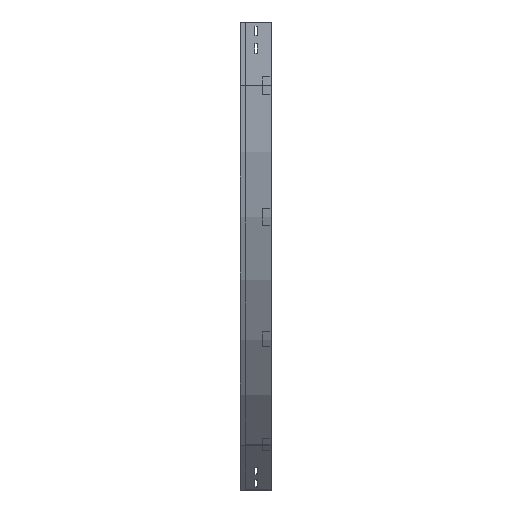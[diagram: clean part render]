
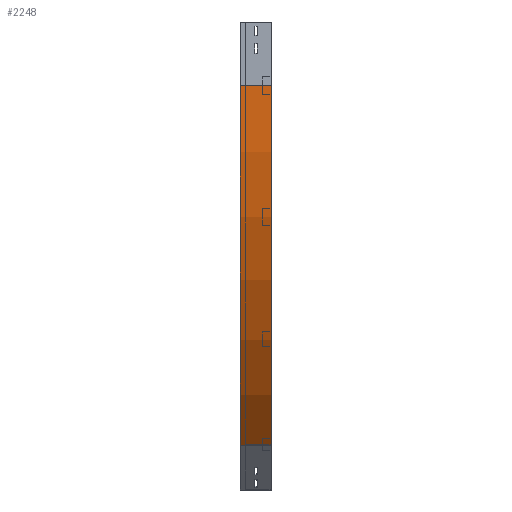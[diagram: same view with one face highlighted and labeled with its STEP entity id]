
A CAD part, left-side view. The second image highlights one B-rep face of the part: STEP entity #2248.
In plain terms, the highlighted cylindrical face has radius 1200 mm (diameter 2400 mm), a partial arc.
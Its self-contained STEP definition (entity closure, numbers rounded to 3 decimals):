
#205 = AXIS2_PLACEMENT_3D ( 'NONE', #984, #1690, #2257 ) ;
#376 = AXIS2_PLACEMENT_3D ( 'NONE', #515, #788, #1656 ) ;
#482 = VECTOR ( 'NONE', #853, 1000. ) ;
#515 = CARTESIAN_POINT ( 'NONE',  ( 1200., 75., -150. ) ) ;
#561 = CIRCLE ( 'NONE', #376, 1200. ) ;
#693 = FACE_OUTER_BOUND ( 'NONE', #1706, .T. ) ;
#788 = DIRECTION ( 'NONE',  ( 0., -1., 0. ) ) ;
#853 = DIRECTION ( 'NONE',  ( 0., -1., 0. ) ) ;
#984 = CARTESIAN_POINT ( 'NONE',  ( 1200., 0., -150. ) ) ;
#1069 = CARTESIAN_POINT ( 'NONE',  ( 351.472, 75., -998.528 ) ) ;
#1117 = CARTESIAN_POINT ( 'NONE',  ( 351.472, 0., -998.528 ) ) ;
#1213 = VECTOR ( 'NONE', #1464, 1000. ) ;
#1267 = ORIENTED_EDGE ( 'NONE', *, *, #1559, .T. ) ;
#1372 = ORIENTED_EDGE ( 'NONE', *, *, #3586, .F. ) ;
#1463 = ORIENTED_EDGE ( 'NONE', *, *, #2091, .T. ) ;
#1464 = DIRECTION ( 'NONE',  ( 0., -1., 0. ) ) ;
#1478 = VERTEX_POINT ( 'NONE', #3078 ) ;
#1559 = EDGE_CURVE ( 'NONE', #2036, #1892, #561, .T. ) ;
#1582 = DIRECTION ( 'NONE',  ( -1., 0., 0. ) ) ;
#1656 = DIRECTION ( 'NONE',  ( -1., 0., 0. ) ) ;
#1690 = DIRECTION ( 'NONE',  ( 0., -1., 0. ) ) ;
#1706 = EDGE_LOOP ( 'NONE', ( #2065, #1372, #1267, #1463 ) ) ;
#1748 = CARTESIAN_POINT ( 'NONE',  ( 351.472, 0., -998.528 ) ) ;
#1766 = LINE ( 'NONE', #2377, #482 ) ;
#1849 = DIRECTION ( 'NONE',  ( 0., -1., 0. ) ) ;
#1892 = VERTEX_POINT ( 'NONE', #1069 ) ;
#2036 = VERTEX_POINT ( 'NONE', #3588 ) ;
#2065 = ORIENTED_EDGE ( 'NONE', *, *, #3412, .F. ) ;
#2091 = EDGE_CURVE ( 'NONE', #1892, #2342, #3272, .T. ) ;
#2248 = ADVANCED_FACE ( 'NONE', ( #693 ), #3663, .T. ) ;
#2257 = DIRECTION ( 'NONE',  ( 0., 0., -1. ) ) ;
#2342 = VERTEX_POINT ( 'NONE', #1117 ) ;
#2377 = CARTESIAN_POINT ( 'NONE',  ( 0., 0., -150. ) ) ;
#3078 = CARTESIAN_POINT ( 'NONE',  ( 0., 0., -150. ) ) ;
#3272 = LINE ( 'NONE', #1748, #1213 ) ;
#3351 = AXIS2_PLACEMENT_3D ( 'NONE', #3352, #1849, #1582 ) ;
#3352 = CARTESIAN_POINT ( 'NONE',  ( 1200., 0., -150. ) ) ;
#3412 = EDGE_CURVE ( 'NONE', #1478, #2342, #3542, .T. ) ;
#3542 = CIRCLE ( 'NONE', #3351, 1200. ) ;
#3586 = EDGE_CURVE ( 'NONE', #2036, #1478, #1766, .T. ) ;
#3588 = CARTESIAN_POINT ( 'NONE',  ( 0., 75., -150. ) ) ;
#3663 = CYLINDRICAL_SURFACE ( 'NONE', #205, 1200. ) ;
